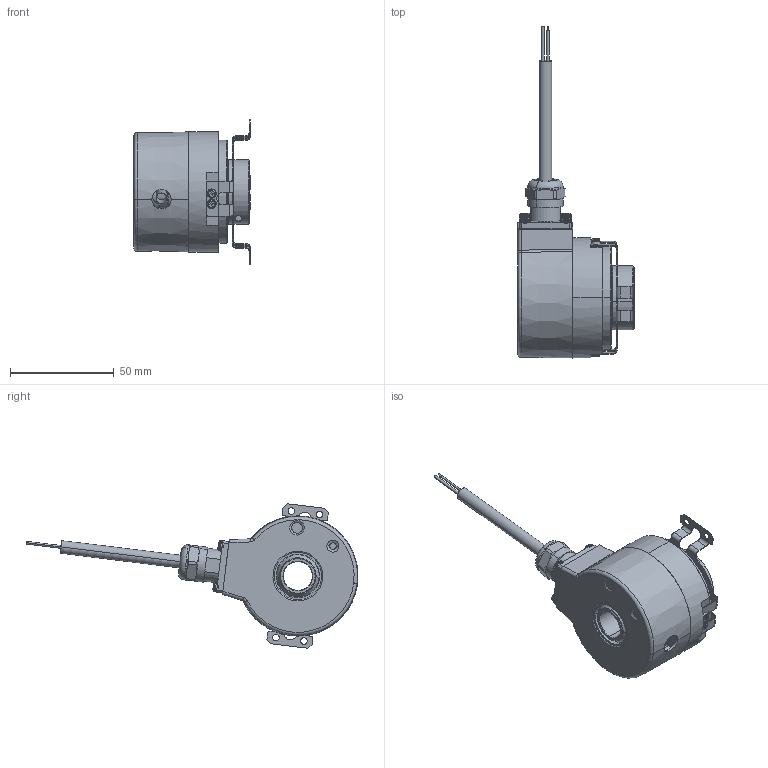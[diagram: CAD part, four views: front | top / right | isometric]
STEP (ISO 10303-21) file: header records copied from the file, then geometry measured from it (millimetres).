
FILE_DESCRIPTION (( 'STEP AP203' ), '1' );
FILE_NAME ('8.5834FSx.B5X2.XXXX.STEP', '2013-08-02T08:23:07', ( 'Admin' ), ( 'Fritz Kübler GmbH' ), 'SwSTEP 2.0', 'SolidWorks 2012', '' );
FILE_SCHEMA (( 'CONFIG_CONTROL_DESIGN' ));
Length unit declared in the file: millimetre
Products named in the file (1): 8.5834FSx.B5X2.XXXX
Bounding box: 56 x 160.1 x 69.69 mm (x, y, z)
Volume: 79895.3 mm3; surface area: 57284.6 mm2
Topology: 26 solids, 27 shells, 1293 faces, 3198 edges, 1956 vertices
Faces by surface type: plane 468, cylinder 410, cone 218, torus 110, sphere 52, bspline 35
Entity records: 41160 total; most frequent: CARTESIAN_POINT 10626, DIRECTION 6669, ORIENTED_EDGE 6168, EDGE_CURVE 3084, AXIS2_PLACEMENT_3D 2665, VERTEX_POINT 1920, EDGE_LOOP 1468, CIRCLE 1406
